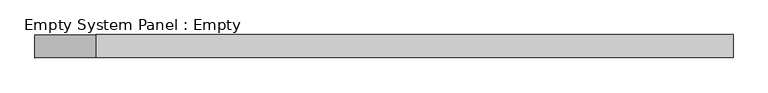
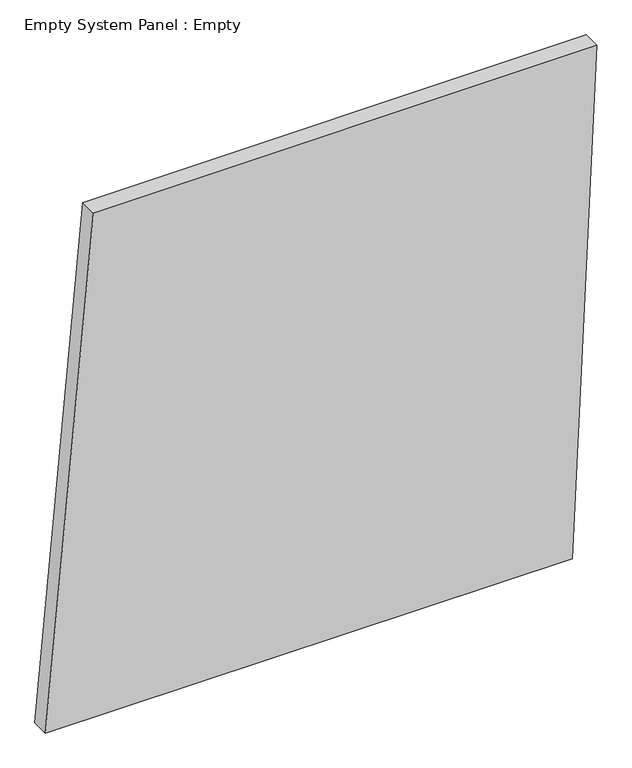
"""IFC4 building model written with IfcOpenShell, lengths in millimetres: plate geometry, Empty System Panel : Empty."""

from ifc_helpers import new_model, si_unit, frame, origin, place, context, project, spatial, polyline, outline, extrude, source, transform, mapped, element, save


def empty_system_panel_empty_9aa10e1d(model_context):
    return source(origin(), model_context, "Body", "SweptSolid", [
        extrude(outline(polyline([(0.0, -1537.3424034), (0.0, 1401.3107548), (2978.1678635, 1537.3424034), (2971.3043307, -1269.7895667), (0.0, -1537.3424034)])), frame((0.0, -50.8, 0.0), z_axis=(0.0, 1.0, 0.0), x_axis=(0.0, 0.0, 1.0)), (0.0, 0.0, 1.0), 101.6),
    ])


if __name__ == "__main__":
    model = new_model("IFC4")
    model_context = context("Model", 3, world=origin())
    ifc_project = project(units=[si_unit("LENGTHUNIT", "METRE", prefix="MILLI")], contexts=[model_context])
    site = spatial("IfcSite", under=ifc_project)
    building = spatial("IfcBuilding", under=site)
    placement = place(None, origin())
    empty_system_panel_empty_shape = empty_system_panel_empty_9aa10e1d(model_context)
    element("IfcPlate", 1, ObjectType="Empty System Panel : Empty", at=placement, inside=building, context=model_context, shape_type="MappedRepresentation", body=[
        mapped(empty_system_panel_empty_shape, transform((0.0, 0.0, 0.0), x_axis=(1.0, 0.0, 0.0), y_axis=(0.0, 1.0, 0.0), z_axis=(0.0, 0.0, 1.0))),
    ])
    save(model, "model.ifc")
